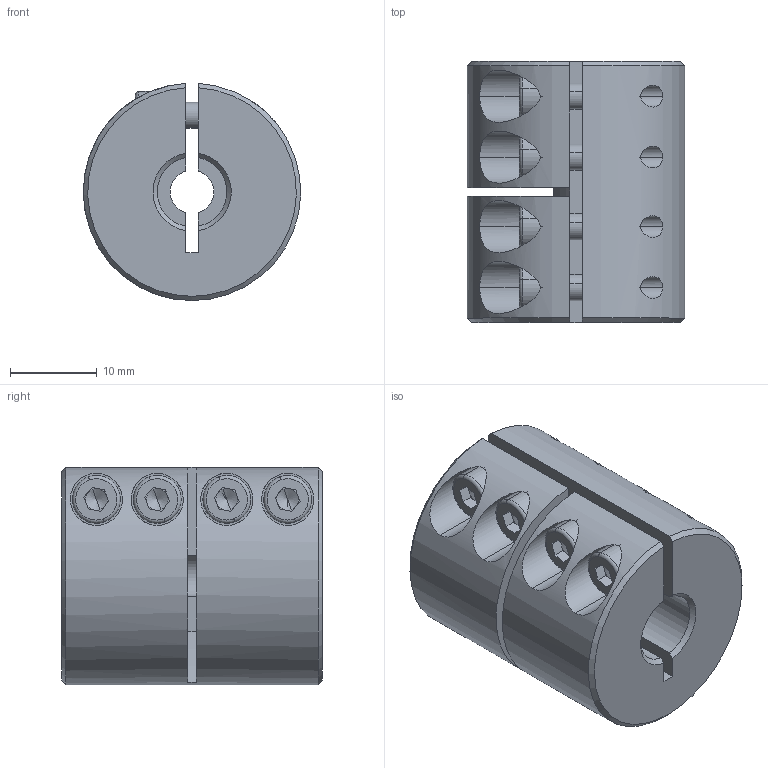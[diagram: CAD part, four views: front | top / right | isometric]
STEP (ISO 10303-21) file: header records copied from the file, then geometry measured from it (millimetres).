
FILE_DESCRIPTION (( 'STEP AP214' ), '1' );
FILE_NAME ('LL-B-D25L30-5-8½¨Ä£.STEP', '2022-07-21T03:04:04', ( '' ), ( '' ), 'SwSTEP 2.0', 'SolidWorks 2022', '' );
FILE_SCHEMA (( 'AUTOMOTIVE_DESIGN' ));
Length unit declared in the file: millimetre
Products named in the file (1): LL-B-D25L30-5-8膘耀
Bounding box: 24.99 x 30 x 24.98 mm (x, y, z)
Volume: 12479.5 mm3; surface area: 5915 mm2
Topology: 1 solids, 1 shells, 164 faces, 418 edges, 264 vertices
Faces by surface type: plane 83, cylinder 58, cone 15, torus 8
Entity records: 5402 total; most frequent: CARTESIAN_POINT 1363, DIRECTION 862, ORIENTED_EDGE 820, EDGE_CURVE 410, AXIS2_PLACEMENT_3D 331, VERTEX_POINT 264, VECTOR 200, LINE 200
